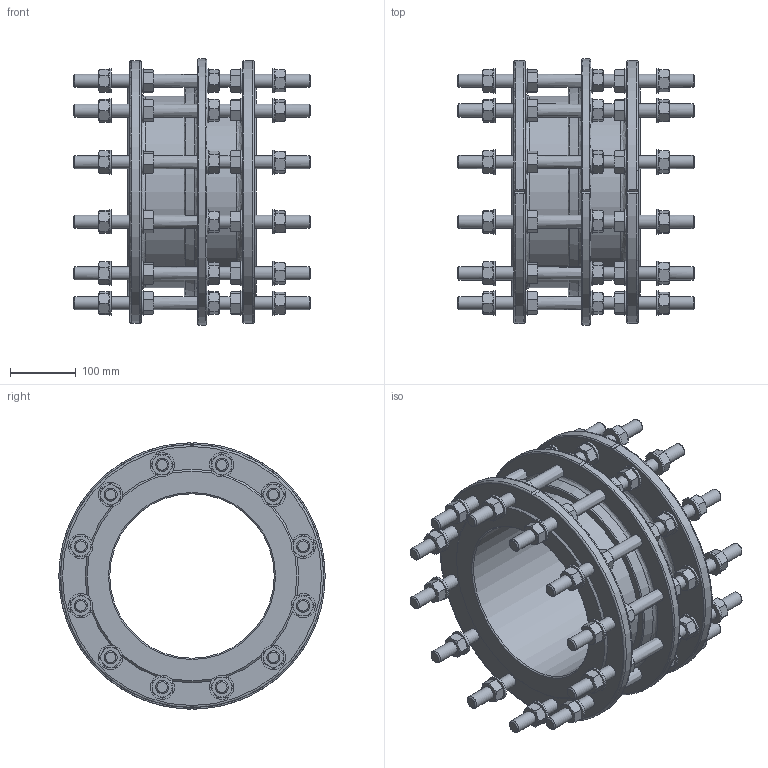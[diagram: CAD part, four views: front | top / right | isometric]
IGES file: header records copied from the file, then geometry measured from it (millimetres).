
Start section: SolidWorks IGES file using analytic representation for surfaces
Global section: file name: \\avksan2\techshare\PBM outline export from Enovia\O_265_911_DN250_0XXXXX01_L=195_REV01.igs; native system: SolidWorks 2022; preprocessor: SolidWorks 2022; author: pbm; date: 241212.084950; units: millimetre
Bounding box: 360 x 405 x 404.96 mm (x, y, z)
Surface area: 1047449.1 mm2 (no closed solid volume)
Topology: 0 solids, 0 shells, 1497 faces, 6364 edges, 6195 vertices
Faces by surface type: revolution 909, bspline 588
